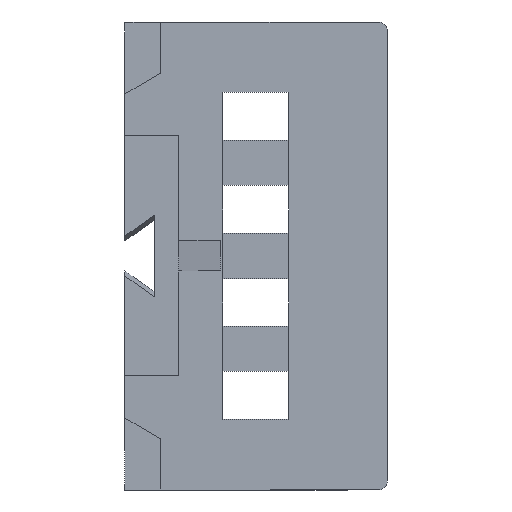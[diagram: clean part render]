
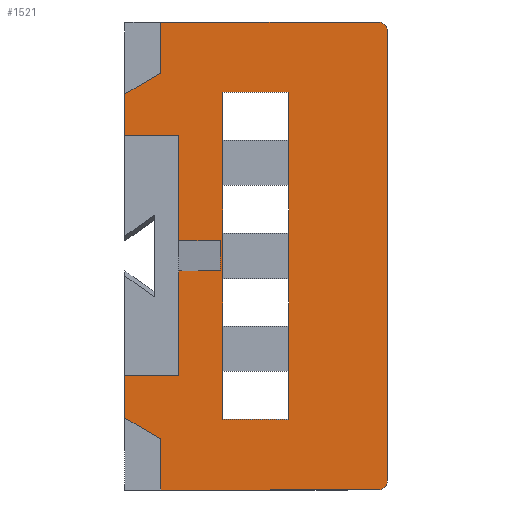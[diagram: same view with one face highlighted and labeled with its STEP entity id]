
A CAD part, front view. The second image highlights one B-rep face of the part: STEP entity #1521.
In plain terms, the highlighted planar face has unit normal (0, -1, 0).
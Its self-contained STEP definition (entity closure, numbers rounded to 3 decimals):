
#15=FACE_BOUND('',#141,.T.);
#34=CIRCLE('',#1604,0.3);
#39=CIRCLE('',#1612,0.3);
#60=FACE_OUTER_BOUND('',#140,.T.);
#140=EDGE_LOOP('',(#1093,#1094,#1095,#1096,#1097,#1098,#1099,#1100,#1101,
#1102,#1103,#1104,#1105,#1106,#1107,#1108,#1109,#1110));
#141=EDGE_LOOP('',(#1111,#1112,#1113,#1114,#1115,#1116,#1117,#1118,#1119,
#1120,#1121,#1122,#1123,#1124,#1125,#1126));
#218=LINE('',#2110,#427);
#241=LINE('',#2159,#450);
#252=LINE('',#2185,#461);
#259=LINE('',#2199,#468);
#268=LINE('',#2235,#477);
#269=LINE('',#2238,#478);
#270=LINE('',#2239,#479);
#271=LINE('',#2241,#480);
#272=LINE('',#2243,#481);
#273=LINE('',#2245,#482);
#274=LINE('',#2247,#483);
#275=LINE('',#2249,#484);
#276=LINE('',#2251,#485);
#277=LINE('',#2252,#486);
#278=LINE('',#2254,#487);
#279=LINE('',#2255,#488);
#280=LINE('',#2258,#489);
#281=LINE('',#2260,#490);
#282=LINE('',#2262,#491);
#283=LINE('',#2264,#492);
#284=LINE('',#2266,#493);
#285=LINE('',#2268,#494);
#286=LINE('',#2270,#495);
#287=LINE('',#2272,#496);
#288=LINE('',#2274,#497);
#289=LINE('',#2276,#498);
#290=LINE('',#2278,#499);
#291=LINE('',#2280,#500);
#292=LINE('',#2282,#501);
#293=LINE('',#2284,#502);
#294=LINE('',#2286,#503);
#295=LINE('',#2287,#504);
#427=VECTOR('',#1702,1.4);
#450=VECTOR('',#1737,7.25);
#461=VECTOR('',#1756,1.4);
#468=VECTOR('',#1765,7.25);
#477=VECTOR('',#1810,15.);
#478=VECTOR('',#1813,1.707);
#479=VECTOR('',#1814,1.386);
#480=VECTOR('',#1815,1.8);
#481=VECTOR('',#1816,3.5);
#482=VECTOR('',#1817,1.386);
#483=VECTOR('',#1818,1.);
#484=VECTOR('',#1819,1.386);
#485=VECTOR('',#1820,3.5);
#486=VECTOR('',#1821,1.8);
#487=VECTOR('',#1822,1.386);
#488=VECTOR('',#1823,1.707);
#489=VECTOR('',#1824,1.5);
#490=VECTOR('',#1825,1.6);
#491=VECTOR('',#1826,1.5);
#492=VECTOR('',#1827,1.6);
#493=VECTOR('',#1828,2.2);
#494=VECTOR('',#1829,1.6);
#495=VECTOR('',#1830,1.5);
#496=VECTOR('',#1831,1.6);
#497=VECTOR('',#1832,1.5);
#498=VECTOR('',#1833,1.6);
#499=VECTOR('',#1834,1.5);
#500=VECTOR('',#1835,1.6);
#501=VECTOR('',#1836,2.2);
#502=VECTOR('',#1837,1.6);
#503=VECTOR('',#1838,1.5);
#504=VECTOR('',#1839,1.6);
#634=VERTEX_POINT('',#2107);
#635=VERTEX_POINT('',#2109);
#654=VERTEX_POINT('',#2156);
#655=VERTEX_POINT('',#2158);
#665=VERTEX_POINT('',#2182);
#666=VERTEX_POINT('',#2184);
#671=VERTEX_POINT('',#2196);
#672=VERTEX_POINT('',#2198);
#676=VERTEX_POINT('',#2210);
#680=VERTEX_POINT('',#2224);
#682=VERTEX_POINT('',#2237);
#683=VERTEX_POINT('',#2240);
#684=VERTEX_POINT('',#2242);
#685=VERTEX_POINT('',#2244);
#686=VERTEX_POINT('',#2246);
#687=VERTEX_POINT('',#2248);
#688=VERTEX_POINT('',#2250);
#689=VERTEX_POINT('',#2253);
#690=VERTEX_POINT('',#2256);
#691=VERTEX_POINT('',#2257);
#692=VERTEX_POINT('',#2259);
#693=VERTEX_POINT('',#2261);
#694=VERTEX_POINT('',#2263);
#695=VERTEX_POINT('',#2265);
#696=VERTEX_POINT('',#2267);
#697=VERTEX_POINT('',#2269);
#698=VERTEX_POINT('',#2271);
#699=VERTEX_POINT('',#2273);
#700=VERTEX_POINT('',#2275);
#701=VERTEX_POINT('',#2277);
#702=VERTEX_POINT('',#2279);
#703=VERTEX_POINT('',#2281);
#704=VERTEX_POINT('',#2283);
#705=VERTEX_POINT('',#2285);
#776=EDGE_CURVE('',#635,#634,#218,.T.);
#801=EDGE_CURVE('',#655,#654,#241,.T.);
#814=EDGE_CURVE('',#666,#665,#252,.T.);
#821=EDGE_CURVE('',#672,#671,#259,.T.);
#827=EDGE_CURVE('',#676,#671,#34,.T.);
#834=EDGE_CURVE('',#655,#680,#39,.T.);
#840=EDGE_CURVE('',#676,#680,#268,.T.);
#841=EDGE_CURVE('',#654,#682,#269,.T.);
#842=EDGE_CURVE('',#682,#635,#270,.T.);
#843=EDGE_CURVE('',#634,#683,#271,.T.);
#844=EDGE_CURVE('',#683,#684,#272,.T.);
#845=EDGE_CURVE('',#684,#685,#273,.T.);
#846=EDGE_CURVE('',#685,#686,#274,.T.);
#847=EDGE_CURVE('',#686,#687,#275,.T.);
#848=EDGE_CURVE('',#687,#688,#276,.T.);
#849=EDGE_CURVE('',#688,#666,#277,.T.);
#850=EDGE_CURVE('',#665,#689,#278,.T.);
#851=EDGE_CURVE('',#689,#672,#279,.T.);
#852=EDGE_CURVE('',#690,#691,#280,.T.);
#853=EDGE_CURVE('',#691,#692,#281,.T.);
#854=EDGE_CURVE('',#692,#693,#282,.T.);
#855=EDGE_CURVE('',#693,#694,#283,.T.);
#856=EDGE_CURVE('',#694,#695,#284,.T.);
#857=EDGE_CURVE('',#695,#696,#285,.T.);
#858=EDGE_CURVE('',#696,#697,#286,.T.);
#859=EDGE_CURVE('',#697,#698,#287,.T.);
#860=EDGE_CURVE('',#698,#699,#288,.T.);
#861=EDGE_CURVE('',#699,#700,#289,.T.);
#862=EDGE_CURVE('',#700,#701,#290,.T.);
#863=EDGE_CURVE('',#701,#702,#291,.T.);
#864=EDGE_CURVE('',#702,#703,#292,.T.);
#865=EDGE_CURVE('',#703,#704,#293,.T.);
#866=EDGE_CURVE('',#704,#705,#294,.T.);
#867=EDGE_CURVE('',#705,#690,#295,.T.);
#1093=ORIENTED_EDGE('',*,*,#827,.F.);
#1094=ORIENTED_EDGE('',*,*,#840,.T.);
#1095=ORIENTED_EDGE('',*,*,#834,.F.);
#1096=ORIENTED_EDGE('',*,*,#801,.T.);
#1097=ORIENTED_EDGE('',*,*,#841,.T.);
#1098=ORIENTED_EDGE('',*,*,#842,.T.);
#1099=ORIENTED_EDGE('',*,*,#776,.T.);
#1100=ORIENTED_EDGE('',*,*,#843,.T.);
#1101=ORIENTED_EDGE('',*,*,#844,.T.);
#1102=ORIENTED_EDGE('',*,*,#845,.T.);
#1103=ORIENTED_EDGE('',*,*,#846,.T.);
#1104=ORIENTED_EDGE('',*,*,#847,.T.);
#1105=ORIENTED_EDGE('',*,*,#848,.T.);
#1106=ORIENTED_EDGE('',*,*,#849,.T.);
#1107=ORIENTED_EDGE('',*,*,#814,.T.);
#1108=ORIENTED_EDGE('',*,*,#850,.T.);
#1109=ORIENTED_EDGE('',*,*,#851,.T.);
#1110=ORIENTED_EDGE('',*,*,#821,.T.);
#1111=ORIENTED_EDGE('',*,*,#852,.T.);
#1112=ORIENTED_EDGE('',*,*,#853,.T.);
#1113=ORIENTED_EDGE('',*,*,#854,.T.);
#1114=ORIENTED_EDGE('',*,*,#855,.T.);
#1115=ORIENTED_EDGE('',*,*,#856,.T.);
#1116=ORIENTED_EDGE('',*,*,#857,.T.);
#1117=ORIENTED_EDGE('',*,*,#858,.T.);
#1118=ORIENTED_EDGE('',*,*,#859,.T.);
#1119=ORIENTED_EDGE('',*,*,#860,.T.);
#1120=ORIENTED_EDGE('',*,*,#861,.T.);
#1121=ORIENTED_EDGE('',*,*,#862,.T.);
#1122=ORIENTED_EDGE('',*,*,#863,.T.);
#1123=ORIENTED_EDGE('',*,*,#864,.T.);
#1124=ORIENTED_EDGE('',*,*,#865,.T.);
#1125=ORIENTED_EDGE('',*,*,#866,.T.);
#1126=ORIENTED_EDGE('',*,*,#867,.T.);
#1441=PLANE('',#1617);
#1521=ADVANCED_FACE('',(#60,#15),#1441,.T.);
#1604=AXIS2_PLACEMENT_3D('',#2211,#1778,#1779);
#1612=AXIS2_PLACEMENT_3D('',#2225,#1796,#1797);
#1617=AXIS2_PLACEMENT_3D('',#2236,#1811,#1812);
#1702=DIRECTION('',(0.,0.,-1.));
#1737=DIRECTION('',(-1.,0.,0.));
#1756=DIRECTION('',(0.,0.,-1.));
#1765=DIRECTION('',(1.,0.,0.));
#1778=DIRECTION('center_axis',(0.,1.,0.));
#1779=DIRECTION('ref_axis',(0.707,0.,-0.707));
#1796=DIRECTION('center_axis',(0.,1.,0.));
#1797=DIRECTION('ref_axis',(0.707,0.,0.707));
#1810=DIRECTION('',(0.,0.,1.));
#1811=DIRECTION('center_axis',(0.,-1.,0.));
#1812=DIRECTION('ref_axis',(0.,0.,-1.));
#1813=DIRECTION('',(0.,0.,-1.));
#1814=DIRECTION('',(-0.866,0.,-0.5));
#1815=DIRECTION('',(1.,0.,0.));
#1816=DIRECTION('',(0.,0.,-1.));
#1817=DIRECTION('',(1.,0.,0.));
#1818=DIRECTION('',(0.,0.,-1.));
#1819=DIRECTION('',(-1.,0.,0.));
#1820=DIRECTION('',(0.,0.,-1.));
#1821=DIRECTION('',(-1.,0.,0.));
#1822=DIRECTION('',(0.866,0.,-0.5));
#1823=DIRECTION('',(0.,0.,-1.));
#1824=DIRECTION('',(0.,0.,-1.));
#1825=DIRECTION('',(0.,0.,-1.));
#1826=DIRECTION('',(0.,0.,-1.));
#1827=DIRECTION('',(0.,0.,-1.));
#1828=DIRECTION('',(-1.,0.,0.));
#1829=DIRECTION('',(0.,0.,1.));
#1830=DIRECTION('',(0.,0.,1.));
#1831=DIRECTION('',(0.,0.,1.));
#1832=DIRECTION('',(0.,0.,1.));
#1833=DIRECTION('',(0.,0.,1.));
#1834=DIRECTION('',(0.,0.,1.));
#1835=DIRECTION('',(0.,0.,1.));
#1836=DIRECTION('',(1.,0.,0.));
#1837=DIRECTION('',(0.,0.,-1.));
#1838=DIRECTION('',(0.,0.,-1.));
#1839=DIRECTION('',(0.,0.,-1.));
#2107=CARTESIAN_POINT('',(-8.75,-1.,11.8));
#2109=CARTESIAN_POINT('',(-8.75,-1.,13.2));
#2110=CARTESIAN_POINT('',(-8.75,-1.,15.6));
#2156=CARTESIAN_POINT('',(-7.55,-1.,15.6));
#2158=CARTESIAN_POINT('',(-0.3,-1.,15.6));
#2159=CARTESIAN_POINT('',(0.,-1.,15.6));
#2182=CARTESIAN_POINT('',(-8.75,-1.,2.4));
#2184=CARTESIAN_POINT('',(-8.75,-1.,3.8));
#2185=CARTESIAN_POINT('',(-8.75,-1.,7.3));
#2196=CARTESIAN_POINT('',(-0.3,-1.,0.));
#2198=CARTESIAN_POINT('',(-7.55,-1.,0.));
#2199=CARTESIAN_POINT('',(-8.75,-1.,0.));
#2210=CARTESIAN_POINT('',(0.,-1.,0.3));
#2211=CARTESIAN_POINT('Origin',(-0.3,-1.,0.3));
#2224=CARTESIAN_POINT('',(0.,-1.,15.3));
#2225=CARTESIAN_POINT('Origin',(-0.3,-1.,15.3));
#2235=CARTESIAN_POINT('',(0.,-1.,0.));
#2236=CARTESIAN_POINT('Origin',(-4.626,-1.,7.8));
#2237=CARTESIAN_POINT('',(-7.55,-1.,13.893));
#2238=CARTESIAN_POINT('',(-7.55,-1.,11.7));
#2239=CARTESIAN_POINT('',(-7.773,-1.,13.764));
#2240=CARTESIAN_POINT('',(-6.95,-1.,11.8));
#2241=CARTESIAN_POINT('',(-5.788,-1.,11.8));
#2242=CARTESIAN_POINT('',(-6.95,-1.,8.3));
#2243=CARTESIAN_POINT('',(-6.95,-1.,5.8));
#2244=CARTESIAN_POINT('',(-5.564,-1.,8.3));
#2245=CARTESIAN_POINT('',(-5.568,-1.,8.3));
#2246=CARTESIAN_POINT('',(-5.564,-1.,7.3));
#2247=CARTESIAN_POINT('',(-5.564,-1.,7.8));
#2248=CARTESIAN_POINT('',(-6.95,-1.,7.3));
#2249=CARTESIAN_POINT('',(-5.568,-1.,7.3));
#2250=CARTESIAN_POINT('',(-6.95,-1.,3.8));
#2251=CARTESIAN_POINT('',(-6.95,-1.,5.8));
#2252=CARTESIAN_POINT('',(-6.688,-1.,3.8));
#2253=CARTESIAN_POINT('',(-7.55,-1.,1.707));
#2254=CARTESIAN_POINT('',(-8.373,-1.,2.182));
#2255=CARTESIAN_POINT('',(-7.55,-1.,4.754));
#2256=CARTESIAN_POINT('',(-3.275,-1.,8.55));
#2257=CARTESIAN_POINT('',(-3.275,-1.,7.05));
#2258=CARTESIAN_POINT('',(-3.275,-1.,7.425));
#2259=CARTESIAN_POINT('',(-3.275,-1.,5.45));
#2260=CARTESIAN_POINT('',(-3.275,-1.,6.625));
#2261=CARTESIAN_POINT('',(-3.275,-1.,3.95));
#2262=CARTESIAN_POINT('',(-3.275,-1.,5.875));
#2263=CARTESIAN_POINT('',(-3.275,-1.,2.35));
#2264=CARTESIAN_POINT('',(-3.275,-1.,5.075));
#2265=CARTESIAN_POINT('',(-5.475,-1.,2.35));
#2266=CARTESIAN_POINT('',(-5.05,-1.,2.35));
#2267=CARTESIAN_POINT('',(-5.475,-1.,3.95));
#2268=CARTESIAN_POINT('',(-5.475,-1.,5.875));
#2269=CARTESIAN_POINT('',(-5.475,-1.,5.45));
#2270=CARTESIAN_POINT('',(-5.475,-1.,6.625));
#2271=CARTESIAN_POINT('',(-5.475,-1.,7.05));
#2272=CARTESIAN_POINT('',(-5.475,-1.,7.425));
#2273=CARTESIAN_POINT('',(-5.475,-1.,8.55));
#2274=CARTESIAN_POINT('',(-5.475,-1.,8.175));
#2275=CARTESIAN_POINT('',(-5.475,-1.,10.15));
#2276=CARTESIAN_POINT('',(-5.475,-1.,8.975));
#2277=CARTESIAN_POINT('',(-5.475,-1.,11.65));
#2278=CARTESIAN_POINT('',(-5.475,-1.,9.725));
#2279=CARTESIAN_POINT('',(-5.475,-1.,13.25));
#2280=CARTESIAN_POINT('',(-5.475,-1.,10.525));
#2281=CARTESIAN_POINT('',(-3.275,-1.,13.25));
#2282=CARTESIAN_POINT('',(-3.95,-1.,13.25));
#2283=CARTESIAN_POINT('',(-3.275,-1.,11.65));
#2284=CARTESIAN_POINT('',(-3.275,-1.,9.725));
#2285=CARTESIAN_POINT('',(-3.275,-1.,10.15));
#2286=CARTESIAN_POINT('',(-3.275,-1.,8.975));
#2287=CARTESIAN_POINT('',(-3.275,-1.,8.175));
